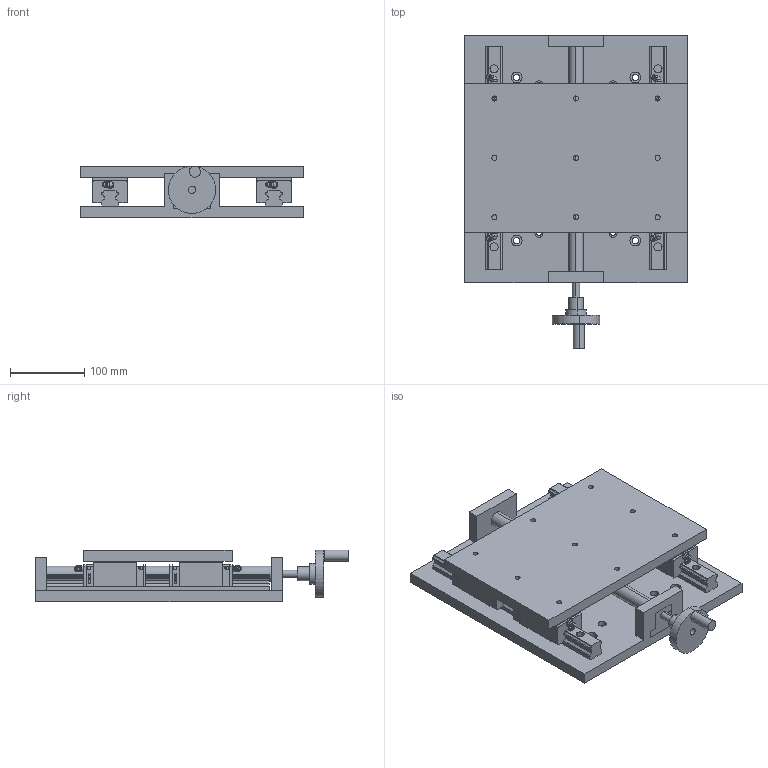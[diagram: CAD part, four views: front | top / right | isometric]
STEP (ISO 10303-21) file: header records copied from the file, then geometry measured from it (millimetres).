
FILE_DESCRIPTION (( 'STEP AP203' ), '1' );
FILE_NAME ('PT300-100.STEP', '2022-04-23T03:44:24', ( '' ), ( '' ), 'SwSTEP 2.0', 'SolidWorks 2017', '' );
FILE_SCHEMA (( 'CONFIG_CONTROL_DESIGN' ));
Length unit declared in the file: millimetre
Products named in the file (1): PT300-100
Bounding box: 300 x 422.1 x 70.06 mm (x, y, z)
Surface area: 498832.9 mm2 (no closed solid volume)
Topology: 0 solids, 46 shells, 423 faces, 3876 edges, 3448 vertices
Faces by surface type: plane 244, cylinder 135, bspline 20, cone 16, torus 8
Entity records: 37606 total; most frequent: CARTESIAN_POINT 10541, DIRECTION 5298, ORIENTED_EDGE 4672, EDGE_CURVE 3848, VERTEX_POINT 3436, LINE 2606, VECTOR 2606, AXIS2_PLACEMENT_3D 1346
